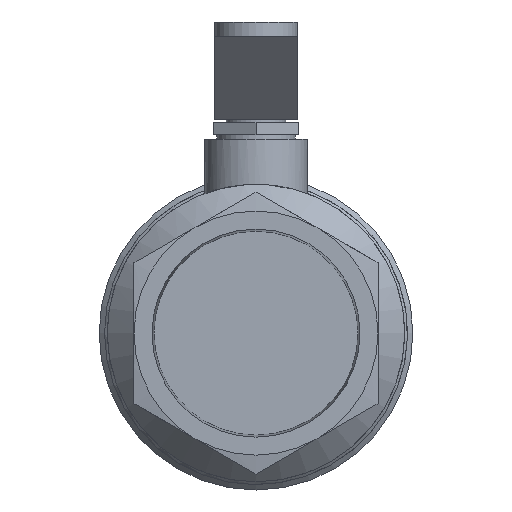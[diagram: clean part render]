
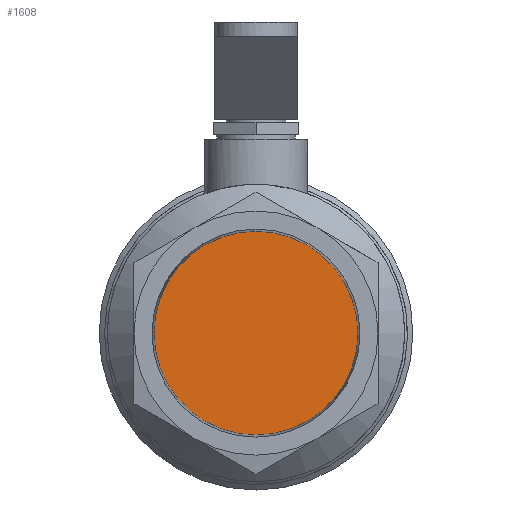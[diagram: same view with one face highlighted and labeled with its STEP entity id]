
A CAD part, left-side view. The second image highlights one B-rep face of the part: STEP entity #1608.
In plain terms, the highlighted free-form (B-spline) face has degree [1, 1] with [2, 2] control points.
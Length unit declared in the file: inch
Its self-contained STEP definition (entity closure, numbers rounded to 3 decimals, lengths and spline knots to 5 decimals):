
#1592=CARTESIAN_POINT('',(0.6969,1.12636,1.12636));
#1593=CARTESIAN_POINT('',(0.6969,-1.12636,1.12636));
#1594=CARTESIAN_POINT('',(0.6969,1.12636,-1.12636));
#1595=CARTESIAN_POINT('',(0.6969,-1.12636,-1.12636));
#1596=B_SPLINE_SURFACE_WITH_KNOTS('',1,1,((#1592,#1594),(#1593,#1595)),.UNSPECIFIED.,.F.,.F.,.U.,(2,2),(2,2),(0.0,2.25272),(0.0,2.25272),.UNSPECIFIED.);
#1597=CARTESIAN_POINT('',(0.6969,1.12636,0.0));
#1598=VERTEX_POINT('',#1597);
#1599=CARTESIAN_POINT('',(0.6969,0.0,0.0));
#1600=DIRECTION('',(1.0,0.0,0.0));
#1601=DIRECTION('',(0.0,1.0,0.0));
#1602=AXIS2_PLACEMENT_3D('',#1599,#1600,#1601);
#1603=CIRCLE('',#1602,1.12636);
#1604=EDGE_CURVE('',#1598,#1598,#1603,.T.);
#1605=ORIENTED_EDGE('',*,*,#1604,.F.);
#1606=EDGE_LOOP('',(#1605));
#1607=FACE_OUTER_BOUND('',#1606,.T.);
#1608=ADVANCED_FACE('',(#1607),#1596,.F.);
